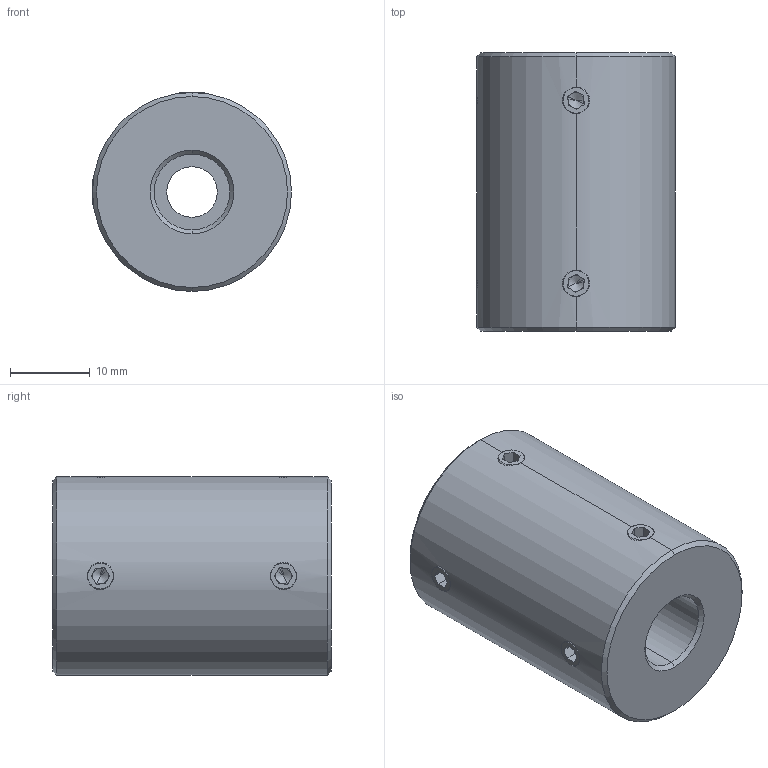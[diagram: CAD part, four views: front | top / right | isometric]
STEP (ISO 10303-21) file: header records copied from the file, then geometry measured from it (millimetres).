
FILE_DESCRIPTION (( 'STEP AP214' ), '1' );
FILE_NAME ('LL-D-D25L35-6.35-9.525½¨Ä£.STEP', '2022-07-23T00:38:56', ( '' ), ( '' ), 'SwSTEP 2.0', 'SolidWorks 2022', '' );
FILE_SCHEMA (( 'AUTOMOTIVE_DESIGN' ));
Length unit declared in the file: millimetre
Products named in the file (1): LL-D-D25L35-6.35-9.525膘耀
Bounding box: 25 x 35 x 25 mm (x, y, z)
Volume: 15168.8 mm3; surface area: 4741.9 mm2
Topology: 1 solids, 1 shells, 113 faces, 286 edges, 176 vertices
Faces by surface type: plane 59, cone 32, cylinder 22
Entity records: 3720 total; most frequent: CARTESIAN_POINT 1010, DIRECTION 558, ORIENTED_EDGE 556, EDGE_CURVE 278, AXIS2_PLACEMENT_3D 206, VERTEX_POINT 176, VECTOR 146, LINE 146
